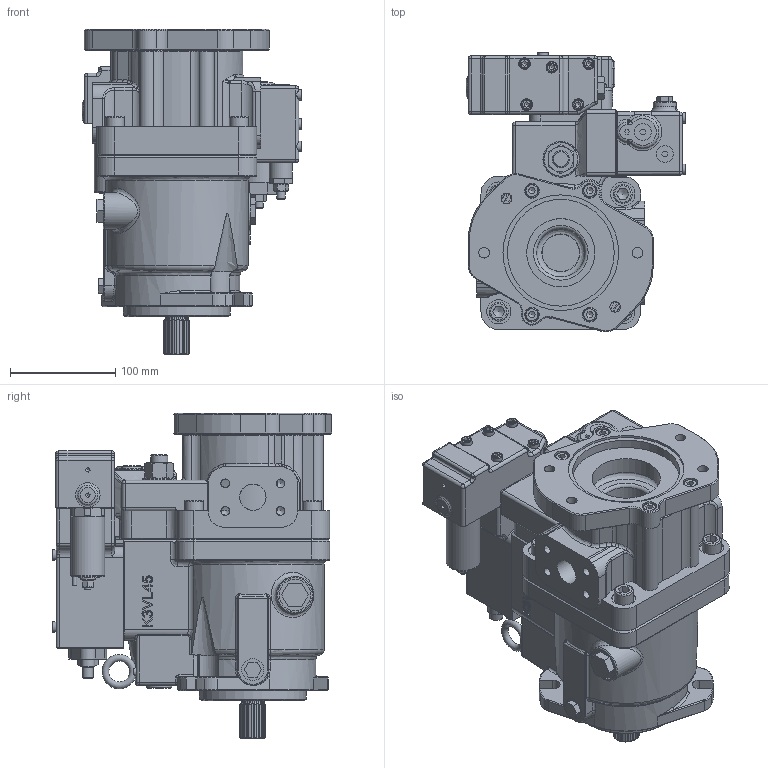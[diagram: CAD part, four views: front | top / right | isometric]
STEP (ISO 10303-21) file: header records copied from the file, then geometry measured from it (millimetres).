
FILE_DESCRIPTION((''),'2;1');
FILE_NAME('I:\Inventor\K3V, M2X\MODEL LIBRARY\K3VL45B 1BBLSM PO 1-EO.stp','2007-06-18T09:42:03',('mnorman'),(''),'Autodesk Inventor 2008','Autodesk Inventor 2008','');
FILE_SCHEMA(('AUTOMOTIVE_DESIGN { 1 0 10303 214 1 1 1 1 }'));
Length unit declared in the file: millimetre
Products named in the file (1): Part3
Bounding box: 209.1 x 266.21 x 310 mm (x, y, z)
Volume: 6195174.7 mm3; surface area: 471397.6 mm2
Topology: 59 solids, 59 shells, 2098 faces, 5013 edges, 3079 vertices
Faces by surface type: plane 985, cylinder 434, bspline 363, cone 240, torus 55, sphere 21
Full cylindrical faces by diameter (mm): 6 x14, 6.5 x4, 8 x11, 9 x3, 9.5 x1, 10 x15, 11 x14, 11.4 x2, 12 x4, 12.75 x1, 13 x6, 14 x3, 16 x4, 18 x5, 21 x1, 21.3 x1, 22 x2, 22.804 x1, 24 x2, 25 x3, 30 x4, 31 x1, 32 x2, 35.5 x1, 36 x1, 38 x1, 46 x1, 65 x1, 75 x1, 82.55 x2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
Entity records: 74317 total; most frequent: CARTESIAN_POINT 28418, DIRECTION 8808, ORIENTED_EDGE 8734, EDGE_CURVE 4367, AXIS2_PLACEMENT_3D 3336, VERTEX_POINT 2852, EDGE_LOOP 2619, VECTOR 2136
